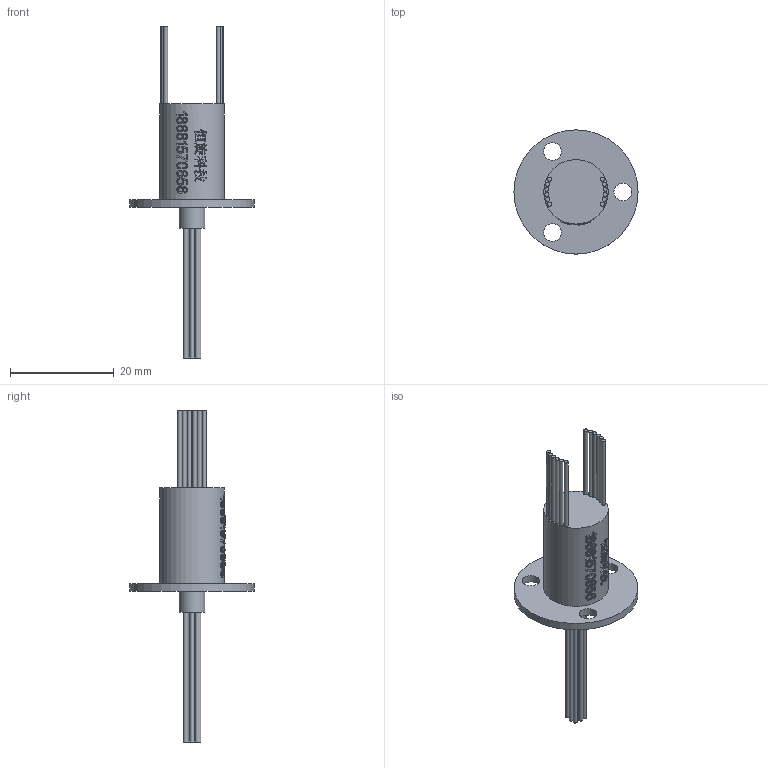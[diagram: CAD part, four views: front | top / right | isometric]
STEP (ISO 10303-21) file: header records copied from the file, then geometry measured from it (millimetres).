
FILE_DESCRIPTION(/* description */ (''),/* implementation_level */ '2;1');
FILE_NAME(/* name */ 'HM012-12.stp',/* time_stamp */ '2025-09-05T08:22:25+08:00',/* author */ (''),/* organization */ (''),/* preprocessor_version */ 'ST-DEVELOPER v16.7',/* originating_system */ 'SIEMENS PLM Software NX 12.0',/* authorisation */ '');
FILE_SCHEMA (('AUTOMOTIVE_DESIGN { 1 0 10303 214 3 1 1 1 }'));
Length unit declared in the file: millimetre
Products named in the file (1): Admi30D0F06639yh
Bounding box: 23.9 x 23.9 x 63.9 mm (x, y, z)
Volume: 3177.2 mm3; surface area: 3029.6 mm2
Topology: 1 solids, 1 shells, 587 faces, 1570 edges, 1048 vertices
Faces by surface type: extrusion 311, plane 209, cylinder 41, bspline 26
Full cylindrical faces by diameter (mm): 0.8 x24, 3.4 x3, 5 x1, 12.4 x1, 23.9 x1
Entity records: 23928 total; most frequent: CARTESIAN_POINT 11694, ORIENTED_EDGE 3076, B_SPLINE_CURVE_WITH_KNOTS 1559, EDGE_CURVE 1538, DIRECTION 1293, VERTEX_POINT 1046, EDGE_LOOP 686, ADVANCED_FACE 587
